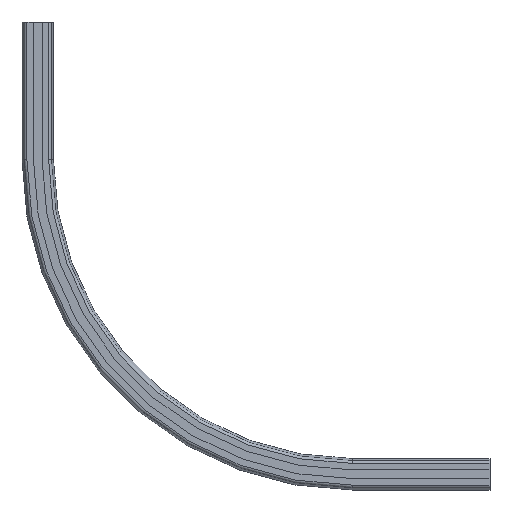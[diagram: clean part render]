
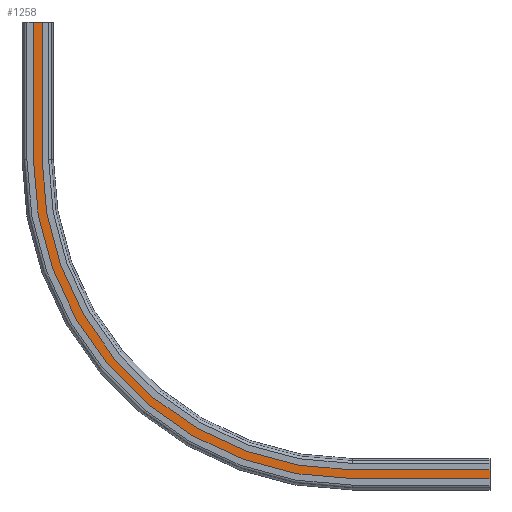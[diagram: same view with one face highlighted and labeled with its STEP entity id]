
A CAD part, front view. The second image highlights one B-rep face of the part: STEP entity #1258.
In plain terms, the highlighted planar face has unit normal (0, -1, 0).
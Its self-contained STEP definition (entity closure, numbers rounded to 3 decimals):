
#53=PLANE('',#1407);
#124=FACE_OUTER_BOUND('',#198,.T.);
#198=EDGE_LOOP('',(#1071,#1072,#1073,#1074,#1075,#1076,#1077,#1078));
#240=LINE('',#1936,#348);
#242=LINE('',#1946,#350);
#302=LINE('',#2168,#410);
#303=LINE('',#2172,#411);
#304=LINE('',#2173,#412);
#305=LINE('',#2174,#413);
#348=VECTOR('',#1520,350.);
#350=VECTOR('',#1530,350.);
#410=VECTOR('',#1790,350.);
#411=VECTOR('',#1795,350.);
#412=VECTOR('',#1796,62.);
#413=VECTOR('',#1797,62.);
#474=CIRCLE('',#1358,831.);
#478=CIRCLE('',#1363,769.);
#537=VERTEX_POINT('',#1933);
#538=VERTEX_POINT('',#1935);
#539=VERTEX_POINT('',#1939);
#542=VERTEX_POINT('',#1944);
#574=VERTEX_POINT('',#2049);
#576=VERTEX_POINT('',#2055);
#604=VERTEX_POINT('',#2167);
#605=VERTEX_POINT('',#2171);
#661=EDGE_CURVE('',#538,#537,#240,.T.);
#666=EDGE_CURVE('',#542,#539,#242,.T.);
#717=EDGE_CURVE('',#574,#538,#474,.T.);
#721=EDGE_CURVE('',#576,#542,#478,.T.);
#778=EDGE_CURVE('',#604,#574,#302,.T.);
#780=EDGE_CURVE('',#605,#576,#303,.T.);
#781=EDGE_CURVE('',#605,#604,#304,.T.);
#782=EDGE_CURVE('',#537,#539,#305,.T.);
#1071=ORIENTED_EDGE('',*,*,#780,.F.);
#1072=ORIENTED_EDGE('',*,*,#781,.T.);
#1073=ORIENTED_EDGE('',*,*,#778,.T.);
#1074=ORIENTED_EDGE('',*,*,#717,.T.);
#1075=ORIENTED_EDGE('',*,*,#661,.T.);
#1076=ORIENTED_EDGE('',*,*,#782,.T.);
#1077=ORIENTED_EDGE('',*,*,#666,.F.);
#1078=ORIENTED_EDGE('',*,*,#721,.F.);
#1258=ADVANCED_FACE('',(#124),#53,.T.);
#1358=AXIS2_PLACEMENT_3D('',#2050,#1654,#1655);
#1363=AXIS2_PLACEMENT_3D('',#2057,#1664,#1665);
#1407=AXIS2_PLACEMENT_3D('',#2170,#1793,#1794);
#1520=DIRECTION('',(1.,0.,0.));
#1530=DIRECTION('',(1.,0.,0.));
#1654=DIRECTION('center_axis',(0.,-1.,0.));
#1655=DIRECTION('ref_axis',(0.,0.,1.));
#1664=DIRECTION('center_axis',(0.,-1.,0.));
#1665=DIRECTION('ref_axis',(0.,0.,1.));
#1790=DIRECTION('',(0.,0.,-1.));
#1793=DIRECTION('center_axis',(0.,-1.,0.));
#1794=DIRECTION('ref_axis',(0.,0.,-1.));
#1795=DIRECTION('',(0.,0.,-1.));
#1796=DIRECTION('',(-1.,0.,0.));
#1797=DIRECTION('',(0.,0.,1.));
#1933=CARTESIAN_POINT('',(1150.,0.,-1181.));
#1935=CARTESIAN_POINT('',(800.,0.,-1181.));
#1936=CARTESIAN_POINT('',(800.,0.,-1181.));
#1939=CARTESIAN_POINT('',(1150.,0.,-1119.));
#1944=CARTESIAN_POINT('',(800.,0.,-1119.));
#1946=CARTESIAN_POINT('',(800.,0.,-1119.));
#2049=CARTESIAN_POINT('',(-31.,0.,-350.));
#2050=CARTESIAN_POINT('Origin',(800.,0.,-350.));
#2055=CARTESIAN_POINT('',(31.,0.,-350.));
#2057=CARTESIAN_POINT('Origin',(800.,0.,-350.));
#2167=CARTESIAN_POINT('',(-31.,0.,0.));
#2168=CARTESIAN_POINT('',(-31.,0.,0.));
#2170=CARTESIAN_POINT('Origin',(-31.,0.,0.));
#2171=CARTESIAN_POINT('',(31.,0.,0.));
#2172=CARTESIAN_POINT('',(31.,0.,0.));
#2173=CARTESIAN_POINT('',(31.,0.,0.));
#2174=CARTESIAN_POINT('',(1150.,0.,-1119.));
